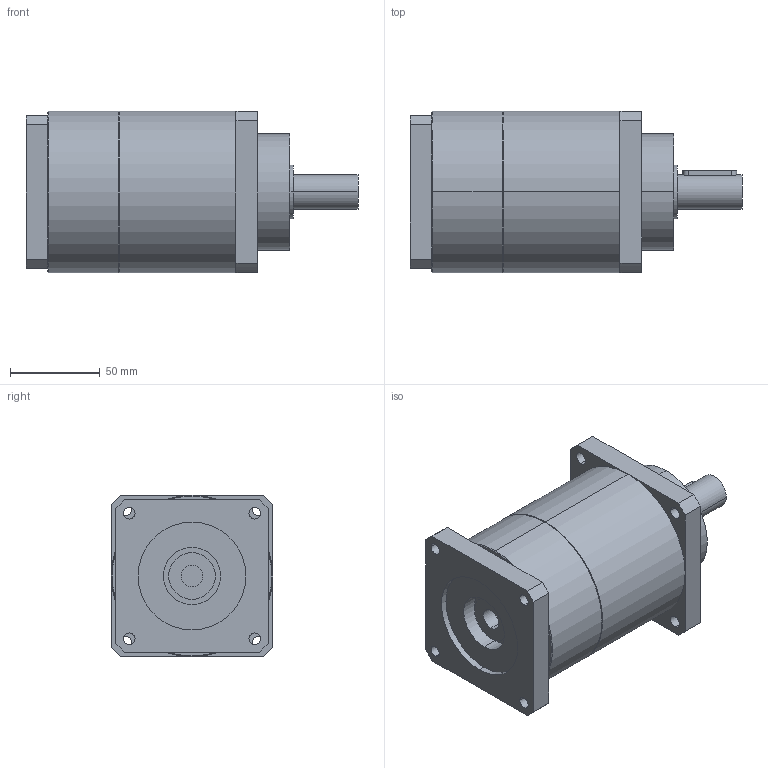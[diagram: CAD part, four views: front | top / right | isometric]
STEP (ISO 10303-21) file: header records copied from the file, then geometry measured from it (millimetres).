
FILE_DESCRIPTION(('CoCreate Modeling STEP Export'),'2;1');
FILE_NAME('GPT90_ig-9-12-16-20-25-28-35-40-50-70-100_19_B5T_12_P36.stp','2015-02-04T11:28:57',(''),(''),'CoCreate Modeling STEP processor for AP214 (Solid Model)','CoCreate Modeling 16.00C 25-Feb-2009 (C) Parametric Technology GmbH','');
FILE_SCHEMA(('AUTOMOTIVE_DESIGN { 1 0 10303 214 1 1 1 1 }'));
Length unit declared in the file: millimetre
Products named in the file (2): GPT90_ig-9-12-16-20-25-28-35-40-50-70-100_19_B5T_12_P36
Assembly tree (1 placements, depth 2):
  GPT90_ig-9-12-16-20-25-28-35-40-50-70-100_19_B5T_12_P36
    GPT90_ig-9-12-16-20-25-28-35-40-50-70-100_19_B5T_12_P36
Bounding box: 185 x 90 x 90 mm (x, y, z)
Volume: 899378.6 mm3; surface area: 67243.3 mm2
Topology: 1 solids, 1 shells, 84 faces, 226 edges, 153 vertices
Faces by surface type: cylinder 42, plane 38, cone 4
Entity records: 2712 total; most frequent: CARTESIAN_POINT 759, ORIENTED_EDGE 452, DIRECTION 322, EDGE_CURVE 226, VERTEX_POINT 153, AXIS2_PLACEMENT_3D 113, EDGE_LOOP 109, VECTOR 96
